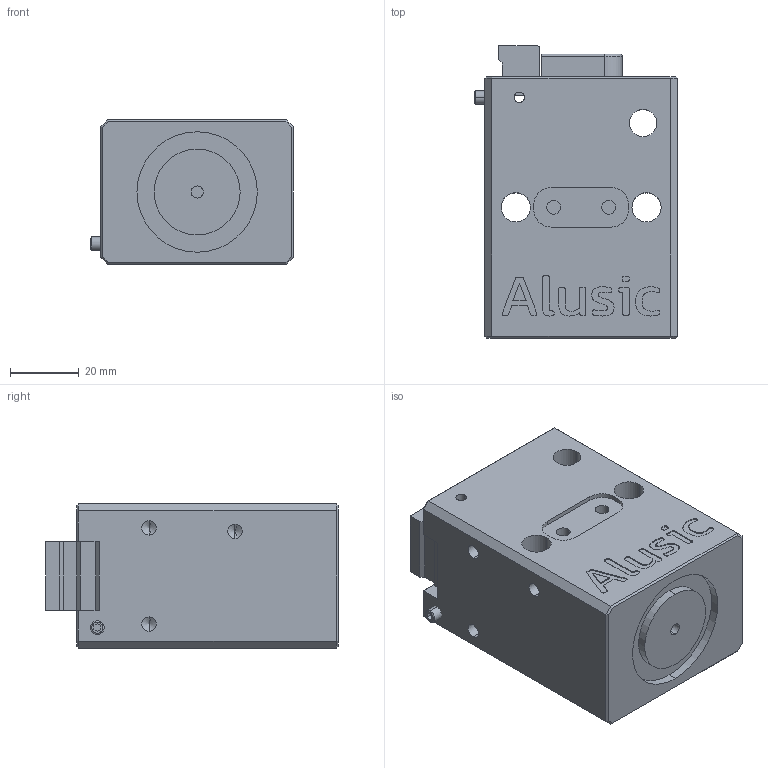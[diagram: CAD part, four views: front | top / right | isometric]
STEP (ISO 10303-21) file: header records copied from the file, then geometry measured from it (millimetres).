
FILE_DESCRIPTION (( 'STEP AP203' ), '1' );
FILE_NAME ('112.500.070.STEP', '2021-06-14T12:07:18', ( '' ), ( '' ), 'SwSTEP 2.0', 'SolidWorks 2018', '' );
FILE_SCHEMA (( 'CONFIG_CONTROL_DESIGN' ));
Length unit declared in the file: millimetre
Products named in the file (3): 112.500.070_CORPO; DIN 914 - M4 x 10-N_DIN 914 - M4 x 10-N; 112.500.070
Assembly tree (2 placements, depth 2):
  112.500.070
    112.500.070_CORPO
    DIN 914 - M4 x 10-N_DIN 914 - M4 x 10-N
Bounding box: 59 x 85 x 42 mm (x, y, z)
Volume: 172392.8 mm3; surface area: 27918.8 mm2
Topology: 4 solids, 4 shells, 281 faces, 728 edges, 465 vertices
Faces by surface type: plane 125, cylinder 88, bspline 50, cone 16, torus 2
Entity records: 9183 total; most frequent: CARTESIAN_POINT 2239, ORIENTED_EDGE 1436, DIRECTION 1268, EDGE_CURVE 718, VERTEX_POINT 465, LINE 432, VECTOR 432, AXIS2_PLACEMENT_3D 418
